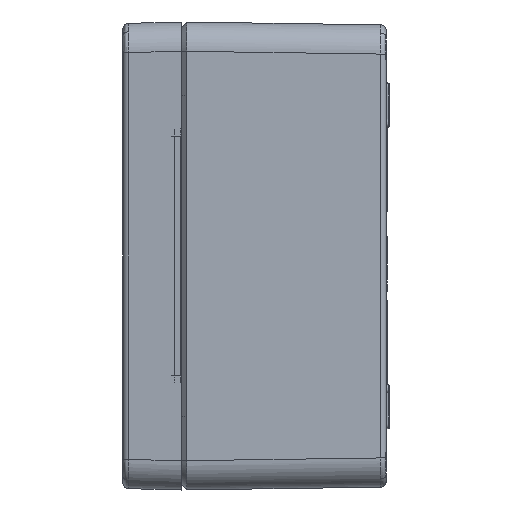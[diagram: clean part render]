
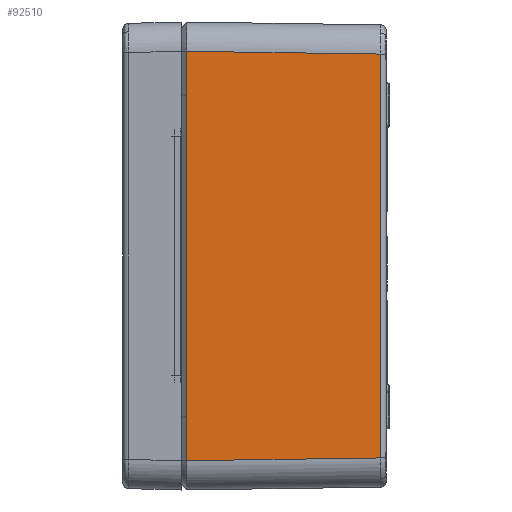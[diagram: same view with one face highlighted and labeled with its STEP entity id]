
A CAD part, left-side view. The second image highlights one B-rep face of the part: STEP entity #92510.
In plain terms, the highlighted planar face has unit normal (-1, -0.014, 0).
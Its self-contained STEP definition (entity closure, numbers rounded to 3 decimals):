
#1778 = DIRECTION ( 'NONE',  ( -1., -0.014, 0. ) ) ;
#7347 = ORIENTED_EDGE ( 'NONE', *, *, #79715, .T. ) ;
#9468 = CARTESIAN_POINT ( 'NONE',  ( -279.97, -2.12, 69.971 ) ) ;
#14374 = VERTEX_POINT ( 'NONE', #97651 ) ;
#17296 = VERTEX_POINT ( 'NONE', #108289 ) ;
#18203 = LINE ( 'NONE', #120476, #120616 ) ;
#19236 = EDGE_CURVE ( 'NONE', #123571, #17296, #79068, .T. ) ;
#27233 = ORIENTED_EDGE ( 'NONE', *, *, #71632, .T. ) ;
#29169 = CARTESIAN_POINT ( 'NONE',  ( -280., 0., -80. ) ) ;
#29261 = EDGE_CURVE ( 'NONE', #108623, #14374, #90420, .T. ) ;
#36077 = AXIS2_PLACEMENT_3D ( 'NONE', #29169, #1778, #69122 ) ;
#39372 = VECTOR ( 'NONE', #67454, 1000. ) ;
#40866 = ORIENTED_EDGE ( 'NONE', *, *, #29261, .T. ) ;
#52778 = FACE_OUTER_BOUND ( 'NONE', #123210, .T. ) ;
#53548 = VECTOR ( 'NONE', #70315, 1000. ) ;
#56599 = CARTESIAN_POINT ( 'NONE',  ( -279.038, -68.028, 69.011 ) ) ;
#67454 = DIRECTION ( 'NONE',  ( 0., 0., 1. ) ) ;
#69122 = DIRECTION ( 'NONE',  ( -0.014, 1., 0. ) ) ;
#70315 = DIRECTION ( 'NONE',  ( 0., 0., -1. ) ) ;
#70771 = VECTOR ( 'NONE', #104160, 1000. ) ;
#71632 = EDGE_CURVE ( 'NONE', #14374, #123571, #114493, .T. ) ;
#77523 = PLANE ( 'NONE',  #36077 ) ;
#79068 = LINE ( 'NONE', #109451, #53548 ) ;
#79715 = EDGE_CURVE ( 'NONE', #17296, #108623, #18203, .T. ) ;
#82093 = CARTESIAN_POINT ( 'NONE',  ( -279.038, -68.028, -69.039 ) ) ;
#83377 = DIRECTION ( 'NONE',  ( 0.014, -1., 0.014 ) ) ;
#90420 = LINE ( 'NONE', #56599, #39372 ) ;
#92510 = ADVANCED_FACE ( 'NONE', ( #52778 ), #77523, .T. ) ;
#97651 = CARTESIAN_POINT ( 'NONE',  ( -279.038, -68.028, 69.039 ) ) ;
#104160 = DIRECTION ( 'NONE',  ( -0.014, 1., 0.014 ) ) ;
#108289 = CARTESIAN_POINT ( 'NONE',  ( -279.975, -1.8, -69.976 ) ) ;
#108623 = VERTEX_POINT ( 'NONE', #82093 ) ;
#109451 = CARTESIAN_POINT ( 'NONE',  ( -279.975, -1.8, -80. ) ) ;
#111810 = ORIENTED_EDGE ( 'NONE', *, *, #19236, .T. ) ;
#114493 = LINE ( 'NONE', #9468, #70771 ) ;
#115248 = CARTESIAN_POINT ( 'NONE',  ( -279.975, -1.8, 69.976 ) ) ;
#120476 = CARTESIAN_POINT ( 'NONE',  ( -280.002, 0.141, -70.003 ) ) ;
#120616 = VECTOR ( 'NONE', #83377, 1000. ) ;
#123210 = EDGE_LOOP ( 'NONE', ( #7347, #40866, #27233, #111810 ) ) ;
#123571 = VERTEX_POINT ( 'NONE', #115248 ) ;
